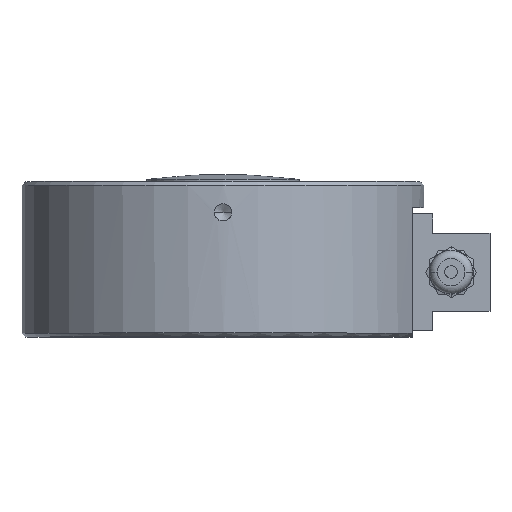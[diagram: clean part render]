
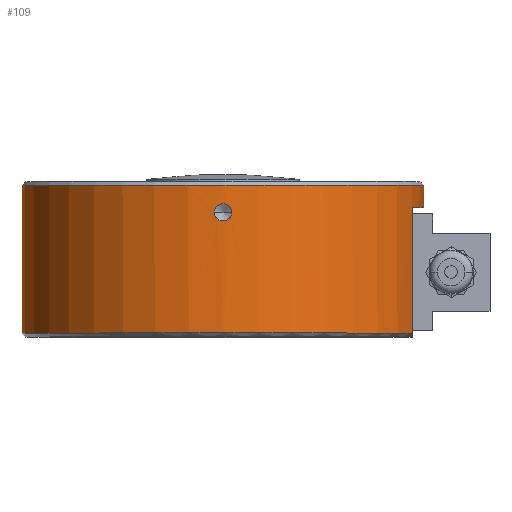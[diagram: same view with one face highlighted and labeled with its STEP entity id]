
A CAD part, top view. The second image highlights one B-rep face of the part: STEP entity #109.
In plain terms, the highlighted cylindrical face has radius 77.5 mm (diameter 155 mm), a partial arc.
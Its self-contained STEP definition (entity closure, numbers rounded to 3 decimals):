
#109=ADVANCED_FACE('',(#293,#294),#295,.T.);
#293=FACE_BOUND('',#640,.T.);
#294=FACE_OUTER_BOUND('',#641,.T.);
#295=CYLINDRICAL_SURFACE('',#642,77.5);
#640=EDGE_LOOP('',(#1161,#1162,#1163,#1164));
#641=EDGE_LOOP('',(#1165,#1166,#1167,#1168,#1169,#1170));
#642=AXIS2_PLACEMENT_3D('',#1171,#1172,#1173);
#1161=ORIENTED_EDGE('',*,*,#2210,.T.);
#1162=ORIENTED_EDGE('',*,*,#2211,.T.);
#1163=ORIENTED_EDGE('',*,*,#2212,.T.);
#1164=ORIENTED_EDGE('',*,*,#2213,.T.);
#1165=ORIENTED_EDGE('',*,*,#2214,.F.);
#1166=ORIENTED_EDGE('',*,*,#2215,.F.);
#1167=ORIENTED_EDGE('',*,*,#2216,.F.);
#1168=ORIENTED_EDGE('',*,*,#2217,.F.);
#1169=ORIENTED_EDGE('',*,*,#2218,.T.);
#1170=ORIENTED_EDGE('',*,*,#2219,.T.);
#1171=CARTESIAN_POINT('',(0.0,30.0,0.0));
#1172=DIRECTION('',(0.0,-1.0,0.0));
#1173=DIRECTION('',(1.0,0.0,0.0));
#2210=EDGE_CURVE('',#2780,#2781,#2782,.T.);
#2211=EDGE_CURVE('',#2781,#2783,#2784,.T.);
#2212=EDGE_CURVE('',#2783,#2785,#2786,.T.);
#2213=EDGE_CURVE('',#2785,#2780,#2787,.T.);
#2214=EDGE_CURVE('',#2788,#2789,#2790,.T.);
#2215=EDGE_CURVE('',#2791,#2788,#2792,.T.);
#2216=EDGE_CURVE('',#2793,#2791,#2794,.T.);
#2217=EDGE_CURVE('',#2795,#2793,#2796,.T.);
#2218=EDGE_CURVE('',#2795,#2797,#2798,.T.);
#2219=EDGE_CURVE('',#2797,#2789,#2799,.T.);
#2780=VERTEX_POINT('',#3422);
#2781=VERTEX_POINT('',#3423);
#2782=B_SPLINE_CURVE_WITH_KNOTS('',3,(#3424,#3425,#3426,#3427,#3428,#3429,#3430,#3431,#3432,#3433,#3434,#3435,#3436,#3437,#3438,#3439,#3440,#3441),.UNSPECIFIED.,.F.,.F.,(4,2,2,2,2,2,2,2,4),(0.501,0.626,0.751,0.876,1.002,1.127,1.252,1.377,1.502),.UNSPECIFIED.);
#2783=VERTEX_POINT('',#3442);
#2784=B_SPLINE_CURVE_WITH_KNOTS('',3,(#3443,#3444,#3445,#3446,#3447,#3448,#3449,#3450,#3451,#3452,#3453,#3454,#3455,#3456,#3457,#3458,#3459,#3460),.UNSPECIFIED.,.F.,.F.,(4,2,2,2,2,2,2,2,4),(0.501,0.626,0.751,0.876,1.002,1.127,1.252,1.377,1.502),.UNSPECIFIED.);
#2785=VERTEX_POINT('',#3461);
#2786=B_SPLINE_CURVE_WITH_KNOTS('',3,(#3462,#3463,#3464,#3465,#3466,#3467,#3468,#3469,#3470,#3471,#3472,#3473,#3474,#3475,#3476,#3477,#3478,#3479,#3480),.UNSPECIFIED.,.F.,.F.,(4,2,2,2,3,2,2,2,4),(1.502,1.628,1.753,1.878,2.003,2.129,2.254,2.379,2.504),.UNSPECIFIED.);
#2787=B_SPLINE_CURVE_WITH_KNOTS('',3,(#3481,#3482,#3483,#3484,#3485,#3486,#3487,#3488,#3489,#3490,#3491,#3492,#3493,#3494,#3495,#3496,#3497,#3498,#3499),.UNSPECIFIED.,.F.,.F.,(4,2,2,2,3,2,2,2,4),(1.502,1.628,1.753,1.878,2.003,2.129,2.254,2.379,2.504),.UNSPECIFIED.);
#2788=VERTEX_POINT('',#3500);
#2789=VERTEX_POINT('',#3501);
#2790=LINE('',#3502,#3503);
#2791=VERTEX_POINT('',#3504);
#2792=CIRCLE('',#3505,77.5);
#2793=VERTEX_POINT('',#3506);
#2794=LINE('',#3507,#3508);
#2795=VERTEX_POINT('',#3509);
#2796=CIRCLE('',#3510,77.5);
#2797=VERTEX_POINT('',#3511);
#2798=LINE('',#3512,#3513);
#2799=CIRCLE('',#3514,77.5);
#3422=CARTESIAN_POINT('',(0.,51.324,77.5));
#3423=CARTESIAN_POINT('',(3.324,48.0,77.429));
#3424=CARTESIAN_POINT('',(0.,51.324,77.5));
#3425=CARTESIAN_POINT('',(0.417,51.324,77.5));
#3426=CARTESIAN_POINT('',(0.863,51.24,77.496));
#3427=CARTESIAN_POINT('',(1.681,50.901,77.483));
#3428=CARTESIAN_POINT('',(2.055,50.645,77.473));
#3429=CARTESIAN_POINT('',(2.645,50.055,77.455));
#3430=CARTESIAN_POINT('',(2.901,49.681,77.446));
#3431=CARTESIAN_POINT('',(3.24,48.863,77.432));
#3432=CARTESIAN_POINT('',(3.324,48.417,77.429));
#3433=CARTESIAN_POINT('',(3.324,47.583,77.429));
#3434=CARTESIAN_POINT('',(3.24,47.137,77.432));
#3435=CARTESIAN_POINT('',(2.901,46.319,77.446));
#3436=CARTESIAN_POINT('',(2.645,45.945,77.455));
#3437=CARTESIAN_POINT('',(2.055,45.355,77.473));
#3438=CARTESIAN_POINT('',(1.681,45.099,77.483));
#3439=CARTESIAN_POINT('',(0.863,44.76,77.496));
#3440=CARTESIAN_POINT('',(0.417,44.677,77.5));
#3441=CARTESIAN_POINT('',(0.,44.677,77.5));
#3442=CARTESIAN_POINT('',(0.,44.677,77.5));
#3443=CARTESIAN_POINT('',(0.,51.324,77.5));
#3444=CARTESIAN_POINT('',(0.417,51.324,77.5));
#3445=CARTESIAN_POINT('',(0.863,51.24,77.496));
#3446=CARTESIAN_POINT('',(1.681,50.901,77.483));
#3447=CARTESIAN_POINT('',(2.055,50.645,77.473));
#3448=CARTESIAN_POINT('',(2.645,50.055,77.455));
#3449=CARTESIAN_POINT('',(2.901,49.681,77.446));
#3450=CARTESIAN_POINT('',(3.24,48.863,77.432));
#3451=CARTESIAN_POINT('',(3.324,48.417,77.429));
#3452=CARTESIAN_POINT('',(3.324,47.583,77.429));
#3453=CARTESIAN_POINT('',(3.24,47.137,77.432));
#3454=CARTESIAN_POINT('',(2.901,46.319,77.446));
#3455=CARTESIAN_POINT('',(2.645,45.945,77.455));
#3456=CARTESIAN_POINT('',(2.055,45.355,77.473));
#3457=CARTESIAN_POINT('',(1.681,45.099,77.483));
#3458=CARTESIAN_POINT('',(0.863,44.76,77.496));
#3459=CARTESIAN_POINT('',(0.417,44.677,77.5));
#3460=CARTESIAN_POINT('',(0.,44.677,77.5));
#3461=CARTESIAN_POINT('',(-3.324,48.0,77.429));
#3462=CARTESIAN_POINT('',(0.,44.677,77.5));
#3463=CARTESIAN_POINT('',(-0.417,44.677,77.5));
#3464=CARTESIAN_POINT('',(-0.863,44.76,77.496));
#3465=CARTESIAN_POINT('',(-1.681,45.099,77.483));
#3466=CARTESIAN_POINT('',(-2.055,45.355,77.473));
#3467=CARTESIAN_POINT('',(-2.645,45.945,77.455));
#3468=CARTESIAN_POINT('',(-2.901,46.319,77.446));
#3469=CARTESIAN_POINT('',(-3.24,47.137,77.432));
#3470=CARTESIAN_POINT('',(-3.324,47.583,77.429));
#3471=CARTESIAN_POINT('',(-3.324,48.0,77.429));
#3472=CARTESIAN_POINT('',(-3.324,48.417,77.429));
#3473=CARTESIAN_POINT('',(-3.24,48.863,77.432));
#3474=CARTESIAN_POINT('',(-2.901,49.681,77.446));
#3475=CARTESIAN_POINT('',(-2.645,50.055,77.455));
#3476=CARTESIAN_POINT('',(-2.055,50.645,77.473));
#3477=CARTESIAN_POINT('',(-1.681,50.901,77.483));
#3478=CARTESIAN_POINT('',(-0.863,51.24,77.496));
#3479=CARTESIAN_POINT('',(-0.417,51.324,77.5));
#3480=CARTESIAN_POINT('',(0.,51.324,77.5));
#3481=CARTESIAN_POINT('',(0.,44.677,77.5));
#3482=CARTESIAN_POINT('',(-0.417,44.677,77.5));
#3483=CARTESIAN_POINT('',(-0.863,44.76,77.496));
#3484=CARTESIAN_POINT('',(-1.681,45.099,77.483));
#3485=CARTESIAN_POINT('',(-2.055,45.355,77.473));
#3486=CARTESIAN_POINT('',(-2.645,45.945,77.455));
#3487=CARTESIAN_POINT('',(-2.901,46.319,77.446));
#3488=CARTESIAN_POINT('',(-3.24,47.137,77.432));
#3489=CARTESIAN_POINT('',(-3.324,47.583,77.429));
#3490=CARTESIAN_POINT('',(-3.324,48.0,77.429));
#3491=CARTESIAN_POINT('',(-3.324,48.417,77.429));
#3492=CARTESIAN_POINT('',(-3.24,48.863,77.432));
#3493=CARTESIAN_POINT('',(-2.901,49.681,77.446));
#3494=CARTESIAN_POINT('',(-2.645,50.055,77.455));
#3495=CARTESIAN_POINT('',(-2.055,50.645,77.473));
#3496=CARTESIAN_POINT('',(-1.681,50.901,77.483));
#3497=CARTESIAN_POINT('',(-0.863,51.24,77.496));
#3498=CARTESIAN_POINT('',(-0.417,51.324,77.5));
#3499=CARTESIAN_POINT('',(0.,51.324,77.5));
#3500=CARTESIAN_POINT('',(77.5,58.5,0.));
#3501=CARTESIAN_POINT('',(77.5,50.0,0.));
#3502=CARTESIAN_POINT('',(77.5,30.0,0.));
#3503=VECTOR('',#4388,1.0);
#3504=CARTESIAN_POINT('',(-77.5,58.5,0.));
#3505=AXIS2_PLACEMENT_3D('',#4389,#4390,#4391);
#3506=CARTESIAN_POINT('',(-77.5,1.5,0.));
#3507=CARTESIAN_POINT('',(-77.5,30.0,0.));
#3508=VECTOR('',#4392,1.0);
#3509=CARTESIAN_POINT('',(73.0,1.5,26.024));
#3510=AXIS2_PLACEMENT_3D('',#4393,#4394,#4395);
#3511=CARTESIAN_POINT('',(73.0,50.0,26.024));
#3512=CARTESIAN_POINT('',(73.0,1.5,26.024));
#3513=VECTOR('',#4396,48.5);
#3514=AXIS2_PLACEMENT_3D('',#4397,#4398,#4399);
#4388=DIRECTION('',(0.0,-1.0,0.0));
#4389=CARTESIAN_POINT('',(0.0,58.5,0.0));
#4390=DIRECTION('',(0.0,1.0,0.0));
#4391=DIRECTION('',(-1.0,0.0,0.0));
#4392=DIRECTION('',(0.0,1.0,0.0));
#4393=CARTESIAN_POINT('',(0.0,1.5,0.0));
#4394=DIRECTION('',(0.0,-1.0,0.0));
#4395=DIRECTION('',(-1.0,0.0,0.0));
#4396=DIRECTION('',(0.0,1.0,0.0));
#4397=CARTESIAN_POINT('',(0.0,50.0,0.0));
#4398=DIRECTION('',(0.0,1.0,0.0));
#4399=DIRECTION('',(1.0,0.0,0.0));
